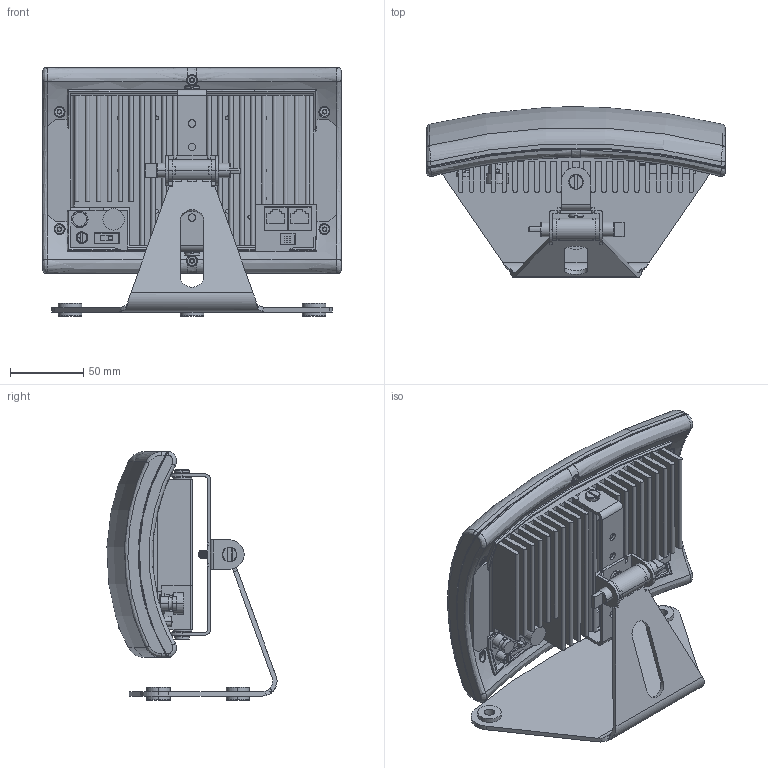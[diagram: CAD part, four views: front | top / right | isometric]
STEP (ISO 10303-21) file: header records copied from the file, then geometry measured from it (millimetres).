
FILE_DESCRIPTION (( 'STEP AP214' ), '1' );
FILE_NAME ('LA-140 IR Radiator.STEP', '2023-04-06T16:15:23', ( '' ), ( '' ), 'SwSTEP 2.0', 'SolidWorks 2023', '' );
FILE_SCHEMA (( 'AUTOMOTIVE_DESIGN' ));
Length unit declared in the file: millimetre
Products named in the file (23): SS021_P222; LED_FRONT; BRACKETRY_PAD; BRACKETRY_05_; BRACKETRY_BOLT; LA_140_RADIATOR_BOTTOM; LA_140_FOOT; DEK657PCB-TI; BRACKETRY_06; KC1901; LA_140_RADIATOR_TOP; BNC_JACK; BRACKETRY; BOLT; RADIATOR; SPST_S206; DELAY_KNOB; La_140_radiator_asm(2); FIXING; BRACKETRY_NUT; LA-140 IR Radiator; BNC; BRACKETRY_COVER
Assembly tree (32 placements, depth 3):
  LA-140 IR Radiator
    La_140_radiator_asm(2)
      LA_140_RADIATOR_BOTTOM
      LA_140_RADIATOR_TOP
      RADIATOR
      FIXING  x2
      BRACKETRY
      BOLT  x3
      BNC  x2
      LED_FRONT  x3
      BRACKETRY_06
      BRACKETRY_BOLT
      BRACKETRY_NUT
      BRACKETRY_COVER
      BRACKETRY_PAD  x2
      SS021_P222
      KC1901
      DEK657PCB-TI  x2
      SPST_S206
      BRACKETRY_05_
      BNC_JACK
      LA_140_FOOT  x3
      DELAY_KNOB
Bounding box: 203 x 115.76 x 169.33 mm (x, y, z)
Volume: 465015.2 mm3; surface area: 310860.1 mm2
Topology: 34 solids, 34 shells, 1854 faces, 4807 edges, 3131 vertices
Faces by surface type: plane 906, cylinder 707, bspline 115, torus 73, cone 41, sphere 12
Entity records: 68714 total; most frequent: CARTESIAN_POINT 30939, ORIENTED_EDGE 8050, DIRECTION 7194, EDGE_CURVE 4025, VERTEX_POINT 2625, AXIS2_PLACEMENT_3D 2530, VECTOR 2134, LINE 2134
